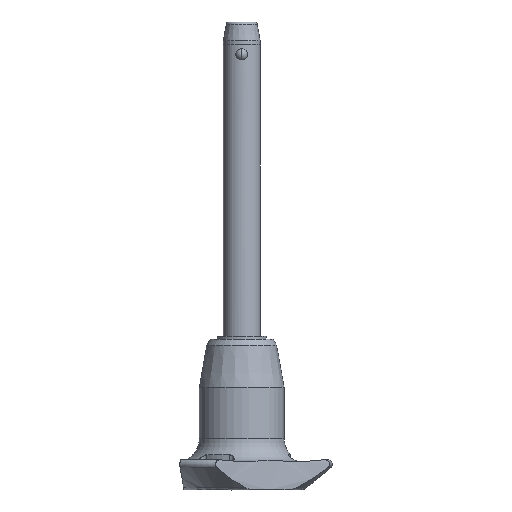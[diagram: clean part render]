
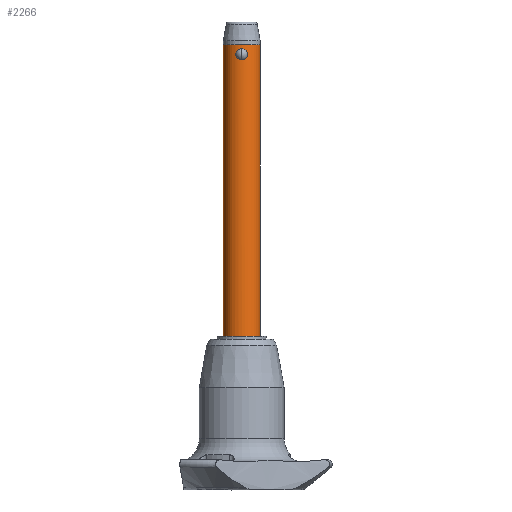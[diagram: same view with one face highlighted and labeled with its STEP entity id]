
A CAD part, front view. The second image highlights one B-rep face of the part: STEP entity #2266.
In plain terms, the highlighted cylindrical face has radius 4 mm (diameter 8 mm), a partial arc.
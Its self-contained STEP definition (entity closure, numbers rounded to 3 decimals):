
#66 = CARTESIAN_POINT ( 'NONE',  ( -4., 0., -60. ) ) ;
#72 = EDGE_LOOP ( 'NONE', ( #2499, #2621, #2142, #2769 ) ) ;
#111 = VECTOR ( 'NONE', #474, 1000. ) ;
#140 = CARTESIAN_POINT ( 'NONE',  ( -1.231, -3.806, 1.527 ) ) ;
#149 = CARTESIAN_POINT ( 'NONE',  ( -0.762, -3.927, 2.166 ) ) ;
#173 = CARTESIAN_POINT ( 'NONE',  ( 1.101, -3.846, 1.82 ) ) ;
#178 = CARTESIAN_POINT ( 'NONE',  ( -0.164, -4., 2.4 ) ) ;
#196 = CARTESIAN_POINT ( 'NONE',  ( 0.326, -3.99, 2.371 ) ) ;
#210 = CARTESIAN_POINT ( 'NONE',  ( 1.224, -3.808, 1.52 ) ) ;
#221 = CARTESIAN_POINT ( 'NONE',  ( 1.231, -3.806, 0.873 ) ) ;
#318 = CARTESIAN_POINT ( 'NONE',  ( 4., 0., 3.28 ) ) ;
#332 = CARTESIAN_POINT ( 'NONE',  ( -0.945, -3.887, 2.008 ) ) ;
#352 = CARTESIAN_POINT ( 'NONE',  ( -1.266, -3.794, 1.12 ) ) ;
#363 = CARTESIAN_POINT ( 'NONE',  ( -1.199, -3.816, 0.802 ) ) ;
#382 = VECTOR ( 'NONE', #1860, 1000. ) ;
#462 = CARTESIAN_POINT ( 'NONE',  ( 0., 0., -60. ) ) ;
#474 = DIRECTION ( 'NONE',  ( 0., 0., 1. ) ) ;
#480 = VERTEX_POINT ( 'NONE', #318 ) ;
#502 = DIRECTION ( 'NONE',  ( 1., 0., 0. ) ) ;
#504 = DIRECTION ( 'NONE',  ( 1., 0., 0. ) ) ;
#559 = CARTESIAN_POINT ( 'NONE',  ( -0.628, -3.953, 0.143 ) ) ;
#572 = CARTESIAN_POINT ( 'NONE',  ( -0.768, -3.927, 0.228 ) ) ;
#629 = CARTESIAN_POINT ( 'NONE',  ( 0.944, -3.887, 0.391 ) ) ;
#632 = VERTEX_POINT ( 'NONE', #1657 ) ;
#724 = CARTESIAN_POINT ( 'NONE',  ( 4., 0., -60. ) ) ;
#790 = CARTESIAN_POINT ( 'NONE',  ( -0.625, -3.951, 2.25 ) ) ;
#817 = CARTESIAN_POINT ( 'NONE',  ( -0.553, -3.962, 2.285 ) ) ;
#824 = CARTESIAN_POINT ( 'NONE',  ( 1.132, -3.836, 0.651 ) ) ;
#862 = CARTESIAN_POINT ( 'NONE',  ( 1.199, -3.816, 1.599 ) ) ;
#952 = DIRECTION ( 'NONE',  ( 0., 0., 1. ) ) ;
#1005 = CARTESIAN_POINT ( 'NONE',  ( -0.827, -3.914, 2.117 ) ) ;
#1010 = VERTEX_POINT ( 'NONE', #1769 ) ;
#1016 = CARTESIAN_POINT ( 'NONE',  ( -1.266, -3.794, 1.364 ) ) ;
#1060 = AXIS2_PLACEMENT_3D ( 'NONE', #1599, #952, #504 ) ;
#1090 = CARTESIAN_POINT ( 'NONE',  ( 0., -4., 2.4 ) ) ;
#1121 = FACE_BOUND ( 'NONE', #1920, .T. ) ;
#1150 = CYLINDRICAL_SURFACE ( 'NONE', #2076, 4. ) ;
#1157 = CIRCLE ( 'NONE', #1060, 4. ) ;
#1159 = VERTEX_POINT ( 'NONE', #724 ) ;
#1169 = EDGE_CURVE ( 'NONE', #1010, #480, #1157, .T. ) ;
#1227 = B_SPLINE_CURVE_WITH_KNOTS ( 'NONE', 3,
 ( #1910, #2157, #2810, #1320, #2771, #629, #2368, #1269, #824, #221, #2583, #1722, #1700, #210, #862, #173, #2557, #1508, #1952, #196, #2395, #1090 ),
 .UNSPECIFIED., .F., .F.,
 ( 4, 2, 2, 2, 2, 2, 2, 2, 2, 2, 4 ),
 ( 0.004, 0.004, 0.005, 0.005, 0.005, 0.006, 0.006, 0.006, 0.007, 0.007, 0.008 ),
 .UNSPECIFIED. ) ;
#1229 = ORIENTED_EDGE ( 'NONE', *, *, #2128, .F. ) ;
#1260 = CARTESIAN_POINT ( 'NONE',  ( -1.092, -3.848, 1.818 ) ) ;
#1269 = CARTESIAN_POINT ( 'NONE',  ( 1.092, -3.848, 0.582 ) ) ;
#1320 = CARTESIAN_POINT ( 'NONE',  ( 0.627, -3.953, 0.143 ) ) ;
#1378 = EDGE_CURVE ( 'NONE', #2554, #1010, #2420, .T. ) ;
#1397 = CIRCLE ( 'NONE', #1756, 4. ) ;
#1435 = CARTESIAN_POINT ( 'NONE',  ( -0.162, -4., 0. ) ) ;
#1508 = CARTESIAN_POINT ( 'NONE',  ( 0.769, -3.927, 2.171 ) ) ;
#1599 = CARTESIAN_POINT ( 'NONE',  ( 0., 0., 3.28 ) ) ;
#1632 = CARTESIAN_POINT ( 'NONE',  ( 0., -4., 0. ) ) ;
#1648 = CARTESIAN_POINT ( 'NONE',  ( 4., 0., -60. ) ) ;
#1657 = CARTESIAN_POINT ( 'NONE',  ( 0., -4., 2.4 ) ) ;
#1667 = CARTESIAN_POINT ( 'NONE',  ( -1.224, -3.808, 0.879 ) ) ;
#1700 = CARTESIAN_POINT ( 'NONE',  ( 1.258, -3.797, 1.361 ) ) ;
#1722 = CARTESIAN_POINT ( 'NONE',  ( 1.266, -3.794, 1.281 ) ) ;
#1756 = AXIS2_PLACEMENT_3D ( 'NONE', #1877, #2524, #1850 ) ;
#1769 = CARTESIAN_POINT ( 'NONE',  ( -4., 0., 3.28 ) ) ;
#1784 = DIRECTION ( 'NONE',  ( 0., 0., 1. ) ) ;
#1850 = DIRECTION ( 'NONE',  ( 1., 0., 0. ) ) ;
#1860 = DIRECTION ( 'NONE',  ( 0., 0., 1. ) ) ;
#1865 = CARTESIAN_POINT ( 'NONE',  ( -1.258, -3.797, 1.038 ) ) ;
#1876 = CARTESIAN_POINT ( 'NONE',  ( -0.326, -3.99, 0.029 ) ) ;
#1877 = CARTESIAN_POINT ( 'NONE',  ( 0., 0., -60. ) ) ;
#1900 = LINE ( 'NONE', #1648, #382 ) ;
#1904 = CARTESIAN_POINT ( 'NONE',  ( -1.005, -3.874, 0.447 ) ) ;
#1910 = CARTESIAN_POINT ( 'NONE',  ( 0., -4., 0. ) ) ;
#1920 = EDGE_LOOP ( 'NONE', ( #2093, #1229 ) ) ;
#1950 = B_SPLINE_CURVE_WITH_KNOTS ( 'NONE', 3,
 ( #2763, #178, #2739, #817, #790, #149, #1005, #332, #2536, #1260, #2776, #140, #1016, #352, #1865, #1667, #363, #2088, #1904, #572, #559, #1876, #1435, #2523 ),
 .UNSPECIFIED., .F., .F.,
 ( 4, 2, 2, 2, 2, 2, 2, 2, 2, 2, 2, 4 ),
 ( 0., 0., 0.001, 0.001, 0.001, 0.001, 0.002, 0.002, 0.002, 0.003, 0.003, 0.004 ),
 .UNSPECIFIED. ) ;
#1952 = CARTESIAN_POINT ( 'NONE',  ( 0.629, -3.953, 2.256 ) ) ;
#2059 = EDGE_CURVE ( 'NONE', #1159, #480, #1900, .T. ) ;
#2076 = AXIS2_PLACEMENT_3D ( 'NONE', #462, #1784, #502 ) ;
#2088 = CARTESIAN_POINT ( 'NONE',  ( -1.101, -3.846, 0.579 ) ) ;
#2093 = ORIENTED_EDGE ( 'NONE', *, *, #2515, .F. ) ;
#2117 = VERTEX_POINT ( 'NONE', #1632 ) ;
#2128 = EDGE_CURVE ( 'NONE', #2117, #632, #1227, .T. ) ;
#2142 = ORIENTED_EDGE ( 'NONE', *, *, #2059, .T. ) ;
#2157 = CARTESIAN_POINT ( 'NONE',  ( 0.162, -4., 0. ) ) ;
#2266 = ADVANCED_FACE ( 'NONE', ( #2424, #1121 ), #1150, .T. ) ;
#2323 = CARTESIAN_POINT ( 'NONE',  ( -4., 0., -60. ) ) ;
#2368 = CARTESIAN_POINT ( 'NONE',  ( 0.999, -3.874, 0.452 ) ) ;
#2395 = CARTESIAN_POINT ( 'NONE',  ( 0.164, -4., 2.4 ) ) ;
#2420 = LINE ( 'NONE', #66, #111 ) ;
#2424 = FACE_OUTER_BOUND ( 'NONE', #72, .T. ) ;
#2499 = ORIENTED_EDGE ( 'NONE', *, *, #1378, .F. ) ;
#2515 = EDGE_CURVE ( 'NONE', #632, #2117, #1950, .T. ) ;
#2523 = CARTESIAN_POINT ( 'NONE',  ( 0., -4., 0. ) ) ;
#2524 = DIRECTION ( 'NONE',  ( 0., 0., -1. ) ) ;
#2536 = CARTESIAN_POINT ( 'NONE',  ( -0.998, -3.874, 1.949 ) ) ;
#2554 = VERTEX_POINT ( 'NONE', #2323 ) ;
#2557 = CARTESIAN_POINT ( 'NONE',  ( 1.005, -3.874, 1.953 ) ) ;
#2583 = CARTESIAN_POINT ( 'NONE',  ( 1.266, -3.794, 1.035 ) ) ;
#2592 = EDGE_CURVE ( 'NONE', #1159, #2554, #1397, .T. ) ;
#2621 = ORIENTED_EDGE ( 'NONE', *, *, #2592, .F. ) ;
#2739 = CARTESIAN_POINT ( 'NONE',  ( -0.325, -3.99, 2.371 ) ) ;
#2763 = CARTESIAN_POINT ( 'NONE',  ( 0., -4., 2.4 ) ) ;
#2769 = ORIENTED_EDGE ( 'NONE', *, *, #1169, .F. ) ;
#2771 = CARTESIAN_POINT ( 'NONE',  ( 0.768, -3.927, 0.228 ) ) ;
#2776 = CARTESIAN_POINT ( 'NONE',  ( -1.133, -3.836, 1.747 ) ) ;
#2810 = CARTESIAN_POINT ( 'NONE',  ( 0.326, -3.99, 0.029 ) ) ;
